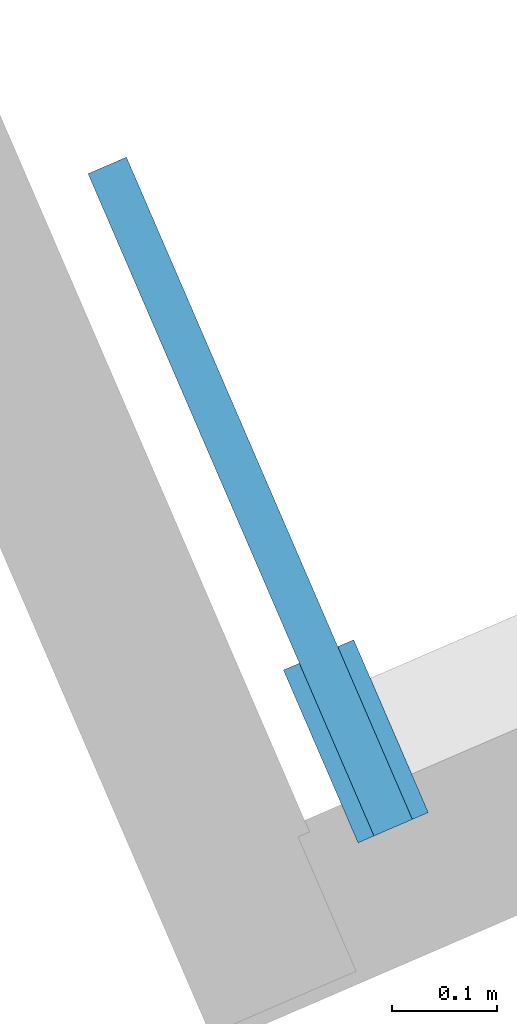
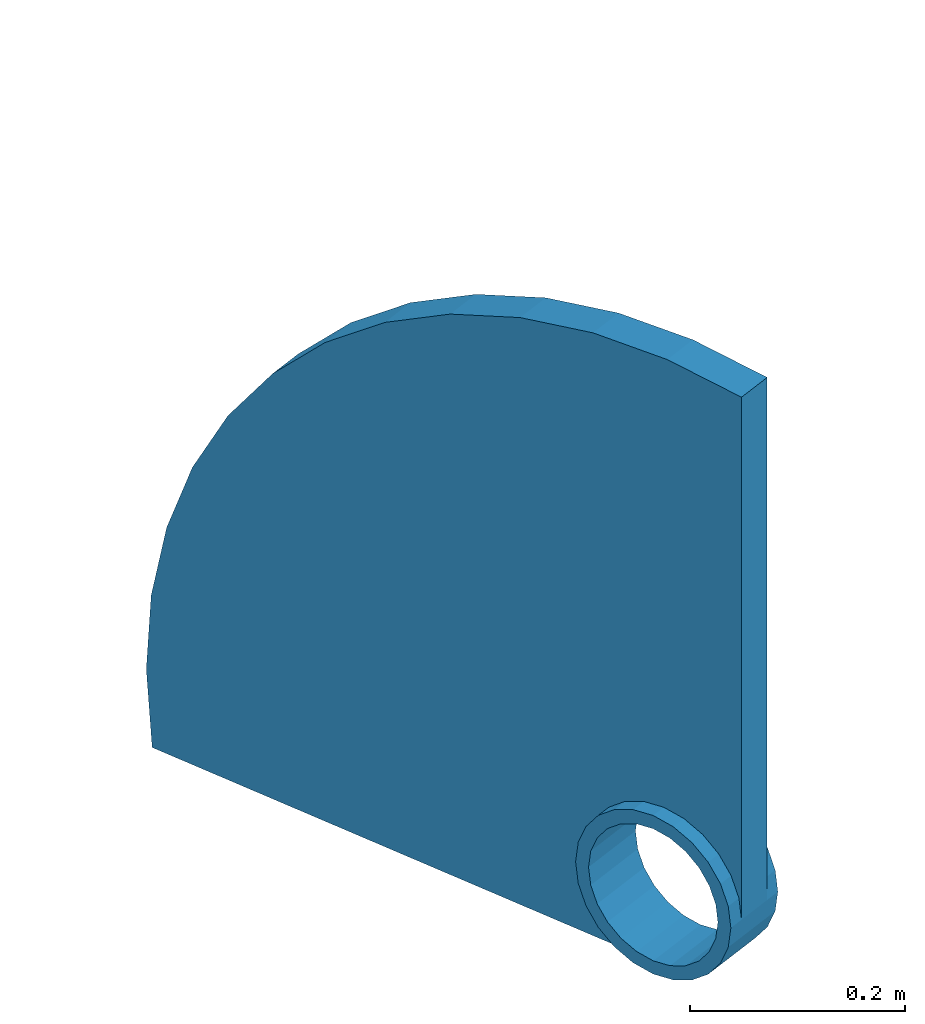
# One storey, part 1 of 5: 1 member.
"""IFC4 building model written with IfcOpenShell, lengths in metres."""

from ifc_helpers import new_model, entity, si_unit, converted_unit, derived_unit, direction, frame, origin, place, context, subcontext, project, spatial, polygons, source, transform, mapped, material, type_object, type_shapes, element, save


model = new_model("IFC4")

# Units and contexts
model_context = context("Model", 3, precision=1e-05, world=origin(), true_north=direction((6.12323399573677e-17, 1.0)))
body_context = subcontext(model_context, "Body", "Model", "MODEL_VIEW")
ifc_project = project(units=[si_unit("LENGTHUNIT", "METRE"), si_unit("AREAUNIT", "SQUARE_METRE"), si_unit("VOLUMEUNIT", "CUBIC_METRE"), converted_unit("PLANEANGLEUNIT", "DEGREE", entity("IfcPlaneAngleMeasure", 0.0174532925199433), si_unit("PLANEANGLEUNIT", "RADIAN"), dimensions=[0, 0, 0, 0, 0, 0, 0]), si_unit("MASSUNIT", "GRAM", prefix="KILO"), derived_unit("MOMENTOFINERTIAUNIT", [(si_unit("LENGTHUNIT", "METRE"), 4)]), derived_unit("LINEARFORCEUNIT", [(si_unit("MASSUNIT", "GRAM", prefix="KILO"), 1), (si_unit("TIMEUNIT", "SECOND"), -2)]), derived_unit("THERMALTRANSMITTANCEUNIT", [(si_unit("MASSUNIT", "GRAM", prefix="KILO"), 1), (si_unit("THERMODYNAMICTEMPERATUREUNIT", "KELVIN"), -1), (si_unit("TIMEUNIT", "SECOND"), -3)]), derived_unit("USERDEFINED", [(si_unit("MASSUNIT", "GRAM", prefix="KILO"), 1), (si_unit("TIMEUNIT", "SECOND"), -2), (si_unit("THERMODYNAMICTEMPERATUREUNIT", "KELVIN"), -1)]), derived_unit("THERMALRESISTANCEUNIT", [(si_unit("MASSUNIT", "GRAM", prefix="KILO"), -1), (si_unit("TIMEUNIT", "SECOND"), 3), (si_unit("THERMODYNAMICTEMPERATUREUNIT", "KELVIN"), 1)])], contexts=[model_context])

# Site, building, storey
site_placement = place(None, origin())
site = spatial("IfcSite", under=ifc_project, at=site_placement, Name="Default", CompositionType="ELEMENT")
building_placement = place(site_placement, frame((4.92348780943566, -84.5603392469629, 320.975), z_axis=(0.0, 0.0, 1.0), x_axis=(-0.396377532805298, 0.918087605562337, 0.0)))
building = spatial("IfcBuilding", under=site, at=building_placement, CompositionType="ELEMENT")
storey_placement = place(building_placement, frame((0.0, 0.0, 4.25)))
storey = spatial("IfcBuildingStorey", under=building, at=storey_placement, Name="Level 2", CompositionType="ELEMENT", Elevation=4.25)

# Member
ifc_material = material(Name="<Unnamed>")
member_type = type_object("IfcMemberType", Name="Union Metalica:Union Metalica", PredefinedType="PLATE", material=ifc_material)
shared_shape = source(origin(), body_context, "Body", "Tessellation", [
    polygons([(-0.036598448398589, 0.09, -5.82050604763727e-16), (-0.036598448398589, 0.0869333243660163, 0.0232937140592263), (-0.036598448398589, 0.0779422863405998, 0.0449999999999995), (-0.036598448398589, 0.0636396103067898, 0.0636396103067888), (-0.036598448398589, 0.0450000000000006, 0.0779422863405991), (-0.036598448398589, 0.0232937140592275, 0.086933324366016), (-0.036598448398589, 7.46918956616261e-16, 0.09), (-0.036598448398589, -0.0232937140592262, 0.0869333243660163), (-0.036598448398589, -0.0449999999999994, 0.0779422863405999), (-0.036598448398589, -0.0636396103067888, 0.0636396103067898), (-0.036598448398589, -0.0779422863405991, 0.0450000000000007), (-0.036598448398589, -0.0869333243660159, 0.0232937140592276), (-0.036598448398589, -0.09, 8.31971483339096e-16), (-0.0200000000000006, -0.09, 8.31971483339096e-16), (-0.0200000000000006, -0.0869333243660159, 0.0232937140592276), (-0.0200000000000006, -0.0779422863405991, 0.0450000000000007), (-0.0200000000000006, -0.0636396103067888, 0.0636396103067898), (-0.0200000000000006, -0.0449999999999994, 0.0779422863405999), (-0.0200000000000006, -0.0232937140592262, 0.0869333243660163), (-0.0200000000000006, 7.46918956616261e-16, 0.09), (-0.0200000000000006, 0.0232937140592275, 0.086933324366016), (-0.0200000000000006, 0.0450000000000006, 0.0779422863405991), (-0.0200000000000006, 0.0636396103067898, 0.0636396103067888), (-0.0200000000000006, 0.0779422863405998, 0.0449999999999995), (-0.0200000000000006, 0.0869333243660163, 0.0232937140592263), (-0.0200000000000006, 0.09, -5.82050604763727e-16), (0.0365984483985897, -0.09, 2.90343465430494e-16), (0.0365984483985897, -0.0869333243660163, -0.0232937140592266), (0.0365984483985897, -0.0779422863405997, -0.0449999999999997), (0.0365984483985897, -0.0636396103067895, -0.0636396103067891), (0.0365984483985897, -0.0450000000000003, -0.0779422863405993), (0.0365984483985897, -0.0232937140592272, -0.0869333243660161), (0.0365984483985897, -4.14535072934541e-16, -0.09), (0.0365984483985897, 0.0232937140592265, -0.0869333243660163), (0.0365984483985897, 0.0449999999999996, -0.0779422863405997), (0.0365984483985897, 0.0636396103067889, -0.0636396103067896), (0.0365984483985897, 0.0779422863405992, -0.0450000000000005), (0.0365984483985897, 0.086933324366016, -0.0232937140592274), (0.0365984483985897, 0.09, -4.54557967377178e-19), (0.0365984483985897, 0.0869333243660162, 0.0232937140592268), (0.0365984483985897, 0.0779422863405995, 0.045), (0.0365984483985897, 0.0636396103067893, 0.0636396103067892), (0.0365984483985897, 0.0450000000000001, 0.0779422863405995), (0.0365984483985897, 0.023293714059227, 0.0869333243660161), (0.0365984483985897, 1.26898491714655e-16, 0.09), (0.0365984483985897, -0.0232937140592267, 0.0869333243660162), (0.0365984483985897, -0.0449999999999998, 0.0779422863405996), (0.0365984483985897, -0.0636396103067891, 0.0636396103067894), (0.0365984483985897, -0.0779422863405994, 0.0450000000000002), (0.0365984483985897, -0.0869333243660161, 0.0232937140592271), (0.0365984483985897, -0.075, -2.42226404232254e-16), (0.0365984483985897, -0.0724444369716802, 0.0194114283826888), (0.0365984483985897, -0.0649519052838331, 0.0374999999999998), (0.0365984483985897, -0.0530330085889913, 0.0530330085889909), (0.0365984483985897, -0.0375000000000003, 0.0649519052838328), (0.0365984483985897, -0.0194114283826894, 0.0724444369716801), (0.0365984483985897, -3.46855877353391e-16, 0.075), (0.0365984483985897, 0.0194114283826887, 0.0724444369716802), (0.0365984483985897, 0.0374999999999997, 0.0649519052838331), (0.0365984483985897, 0.0530330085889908, 0.0530330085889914), (0.0365984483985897, 0.0649519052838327, 0.0375000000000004), (0.0365984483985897, 0.07244443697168, 0.0194114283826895), (0.0365984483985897, 0.075, 1.05281932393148e-19), (0.0365984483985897, 0.0724444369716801, -0.019411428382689), (0.0365984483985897, 0.0649519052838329, -0.0375), (0.0365984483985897, 0.0530330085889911, -0.053033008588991), (0.0365984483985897, 0.0375000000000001, -0.0649519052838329), (0.0365984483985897, 0.0194114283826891, -0.0724444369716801), (0.0365984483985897, 1.01518793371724e-16, -0.075), (0.0365984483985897, -0.0194114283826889, -0.0724444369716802), (0.0365984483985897, -0.0374999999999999, -0.064951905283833), (0.0365984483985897, -0.053033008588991, -0.0530330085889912), (0.0365984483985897, -0.0649519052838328, -0.0375000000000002), (0.0365984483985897, -0.0724444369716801, -0.0194114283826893), (-0.036598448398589, 0.086933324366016, -0.0232937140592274), (-0.036598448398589, 0.0779422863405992, -0.0450000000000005), (-0.036598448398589, 0.0636396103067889, -0.0636396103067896), (-0.036598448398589, 0.0449999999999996, -0.0779422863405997), (-0.036598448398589, 0.0232937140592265, -0.0869333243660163), (-0.036598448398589, -4.14535072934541e-16, -0.09), (-0.036598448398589, -0.0232937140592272, -0.0869333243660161), (-0.036598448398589, -0.0450000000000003, -0.0779422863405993), (-0.036598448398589, -0.0636396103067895, -0.0636396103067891), (-0.036598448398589, -0.0779422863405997, -0.0449999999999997), (-0.036598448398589, -0.0869333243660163, -0.0232937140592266), (-0.036598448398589, -0.075, -2.08919713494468e-16), (-0.036598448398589, -0.0724444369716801, -0.0194114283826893), (-0.036598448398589, -0.0649519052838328, -0.0375000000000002), (-0.036598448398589, -0.053033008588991, -0.0530330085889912), (-0.036598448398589, -0.0374999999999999, -0.064951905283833), (-0.036598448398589, -0.0194114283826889, -0.0724444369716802), (-0.036598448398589, 1.01518793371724e-16, -0.075), (-0.036598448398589, 0.0194114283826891, -0.0724444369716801), (-0.036598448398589, 0.0375000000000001, -0.0649519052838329), (-0.036598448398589, 0.0530330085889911, -0.053033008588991), (-0.036598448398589, 0.0649519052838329, -0.0375), (-0.036598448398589, 0.0724444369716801, -0.019411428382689), (-0.036598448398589, 0.075, 4.18155272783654e-16), (-0.036598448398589, 0.07244443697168, 0.0194114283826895), (-0.036598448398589, 0.0649519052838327, 0.0375000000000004), (-0.036598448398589, 0.0530330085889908, 0.0530330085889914), (-0.036598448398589, 0.0374999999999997, 0.0649519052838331), (-0.036598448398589, 0.0194114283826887, 0.0724444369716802), (-0.036598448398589, -3.46855877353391e-16, 0.075), (-0.036598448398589, -0.0194114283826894, 0.0724444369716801), (-0.036598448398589, -0.0375000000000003, 0.0649519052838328), (-0.036598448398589, -0.0530330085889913, 0.0530330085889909), (-0.036598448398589, -0.0649519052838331, 0.0374999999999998), (-0.036598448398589, -0.0724444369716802, 0.0194114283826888), (0.0200000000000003, -0.09, 1.30471349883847e-16), (-0.0200000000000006, 0.0869333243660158, -0.0232937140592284), (-0.0200000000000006, 0.0779422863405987, -0.0450000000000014), (-0.0200000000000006, 0.0636396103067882, -0.0636396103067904), (-0.0200000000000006, 0.0449999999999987, -0.0779422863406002), (-0.0200000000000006, 0.0232937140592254, -0.0869333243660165), (-0.0200000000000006, -8.95889483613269e-16, -0.09), (0.0200000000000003, -1.37550583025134e-15, -0.09), (0.0200000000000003, 0.0232937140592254, -0.0869333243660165), (0.0200000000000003, 0.0449999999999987, -0.0779422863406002), (0.0200000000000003, 0.0636396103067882, -0.0636396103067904), (0.0200000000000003, 0.0779422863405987, -0.0450000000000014), (0.0200000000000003, 0.0869333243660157, -0.0232937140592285), (0.0200000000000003, 0.09, -1.14160300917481e-15), (0.0200000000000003, 0.0869333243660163, 0.0232937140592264), (0.0200000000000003, 0.0779422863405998, 0.0449999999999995), (0.0200000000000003, 0.0636396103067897, 0.0636396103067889), (0.0200000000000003, 0.0450000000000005, 0.0779422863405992), (0.0200000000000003, 0.0232937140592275, 0.086933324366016), (0.0200000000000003, 7.46918956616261e-16, 0.09), (0.0200000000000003, -0.0232937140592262, 0.0869333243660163), (0.0200000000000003, -0.0449999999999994, 0.0779422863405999), (0.0200000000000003, -0.0636396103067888, 0.0636396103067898), (0.0200000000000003, -0.0779422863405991, 0.0450000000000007), (0.0200000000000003, -0.0869333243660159, 0.0232937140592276), (0.0200000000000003, 0.593211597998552, -0.090000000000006), (0.0200000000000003, 0.599987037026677, -0.00394403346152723), (0.0200000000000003, 0.594343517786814, 0.0821935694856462), (0.0200000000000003, 0.57639785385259, 0.166629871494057), (0.0200000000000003, 0.546521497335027, 0.247617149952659), (0.0200000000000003, 0.505332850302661, 0.323479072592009), (0.0200000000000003, 0.453684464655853, 0.39264539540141), (0.0200000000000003, 0.392645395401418, 0.453684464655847), (0.0200000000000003, 0.323479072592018, 0.505332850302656), (0.0200000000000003, 0.247617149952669, 0.546521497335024), (0.0200000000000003, 0.166629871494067, 0.576397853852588), (0.0200000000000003, 0.0821935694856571, 0.594343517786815), (0.0200000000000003, -0.00394403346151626, 0.59998703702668), (0.0200000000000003, -0.0899999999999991, 0.593211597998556), (-0.0200000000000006, 0.593211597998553, -0.0900000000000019), (-0.0200000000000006, -0.0899999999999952, 0.593211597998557), (-0.0200000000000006, -0.00394403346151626, 0.59998703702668), (-0.0200000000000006, 0.0821935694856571, 0.594343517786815), (-0.0200000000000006, 0.166629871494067, 0.576397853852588), (-0.0200000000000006, 0.247617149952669, 0.546521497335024), (-0.0200000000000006, 0.323479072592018, 0.505332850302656), (-0.0200000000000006, 0.392645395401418, 0.453684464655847), (-0.0200000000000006, 0.453684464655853, 0.39264539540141), (-0.0200000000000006, 0.505332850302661, 0.323479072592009), (-0.0200000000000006, 0.546521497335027, 0.247617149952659), (-0.0200000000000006, 0.57639785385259, 0.166629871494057), (-0.0200000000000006, 0.594343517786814, 0.0821935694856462), (-0.0200000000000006, 0.599987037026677, -0.00394403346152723)], [[[2, 25, 26, 1]], [[51, 74, 87, 86]], [[123, 124, 40, 39]], [[3, 24, 25, 2]], [[74, 73, 88, 87]], [[124, 125, 41, 40]], [[23, 4, 5, 22]], [[71, 90, 89, 72]], [[126, 127, 43, 42]], [[3, 4, 23, 24]], [[88, 73, 72, 89]], [[125, 126, 42, 41]], [[22, 5, 6, 21]], [[71, 70, 91, 90]], [[127, 128, 44, 43]], [[7, 20, 21, 6]], [[69, 92, 91, 70]], [[45, 44, 128, 129]], [[9, 18, 19, 8]], [[94, 93, 68, 67]], [[130, 131, 47, 46]], [[10, 17, 18, 9]], [[95, 94, 67, 66]], [[131, 132, 48, 47]], [[16, 11, 12, 15]], [[64, 97, 96, 65]], [[133, 134, 50, 49]], [[10, 11, 16, 17]], [[96, 95, 66, 65]], [[132, 133, 49, 48]], [[15, 12, 13, 14]], [[63, 98, 97, 64]], [[134, 110, 27, 50]], [[19, 20, 7, 8]], [[93, 92, 69, 68]], [[130, 46, 45, 129]], [[47, 48, 49, 50, 27, 28, 29, 30, 31, 32, 33, 34, 35, 36, 37, 38, 39, 40, 41, 42, 43, 44, 45, 46], [55, 56, 57, 58, 59, 60, 61, 62, 63, 64, 65, 66, 67, 68, 69, 70, 71, 72, 73, 74, 51, 52, 53, 54]], [[122, 121, 120, 119, 118, 117, 135, 136, 137, 138, 139, 140, 141, 142, 143, 144, 145, 146, 147, 148, 110, 134, 133, 132, 131, 130, 129, 128, 127, 126, 125, 124, 123]], [[82, 83, 84, 85, 13, 12, 11, 10, 9, 8, 7, 6, 5, 4, 3, 2, 1, 75, 76, 77, 78, 79, 80, 81], [90, 91, 92, 93, 94, 95, 96, 97, 98, 99, 100, 101, 102, 103, 104, 105, 106, 107, 108, 109, 86, 87, 88, 89]], [[156, 157, 158, 159, 160, 161, 162, 149, 116, 115, 114, 113, 112, 111, 26, 25, 24, 23, 22, 21, 20, 19, 18, 17, 16, 15, 14, 150, 151, 152, 153, 154, 155]], [[53, 52, 109, 108]], [[75, 111, 112, 76]], [[121, 122, 38, 37]], [[109, 52, 51, 86]], [[75, 1, 26, 111]], [[122, 123, 39, 38]], [[55, 54, 107, 106]], [[78, 77, 113, 114]], [[119, 120, 36, 35]], [[53, 108, 107, 54]], [[112, 113, 77, 76]], [[120, 121, 37, 36]], [[55, 106, 105, 56]], [[115, 79, 78, 114]], [[119, 35, 34, 118]], [[105, 104, 57, 56]], [[80, 79, 115, 116]], [[33, 117, 118, 34]], [[59, 58, 103, 102]], [[82, 81, 32, 31]], [[59, 102, 101, 60]], [[30, 83, 82, 31]], [[62, 61, 100, 99]], [[84, 29, 28, 85]], [[100, 61, 60, 101]], [[83, 30, 29, 84]], [[63, 62, 99, 98]], [[14, 13, 85, 28, 27, 110]], [[57, 104, 103, 58]], [[80, 116, 117, 33, 32, 81]], [[135, 149, 162, 136]], [[161, 137, 136, 162]], [[159, 158, 140, 139]], [[138, 160, 159, 139]], [[137, 161, 160, 138]], [[140, 158, 157, 141]], [[157, 156, 142, 141]], [[142, 156, 155, 143]], [[154, 144, 143, 155]], [[152, 151, 147, 146]], [[145, 153, 152, 146]], [[144, 154, 153, 145]], [[147, 151, 150, 148]], [[110, 148, 150, 14]], [[135, 117, 116, 149]]], closed=True),
])
type_shapes(member_type, [shared_shape])
member_placement = place(storey_placement, frame((-2.07683941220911, 5.71117704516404, -4.25000000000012), z_axis=(0.0, 0.0, 1.0), x_axis=(0.0, -1.0, 0.0)))
element("IfcMember", 1, at=member_placement, inside=storey, type_object=member_type, material=ifc_material, Name="Union Metalica:Union Metalica", ObjectType="Union Metalica:Union Metalica", PredefinedType="PLATE", context=body_context, shape_type="MappedRepresentation", body=[
    mapped(shared_shape, transform((0.0, 0.0, 0.0), scale=1.0)),
])

save(model, "model.ifc")
